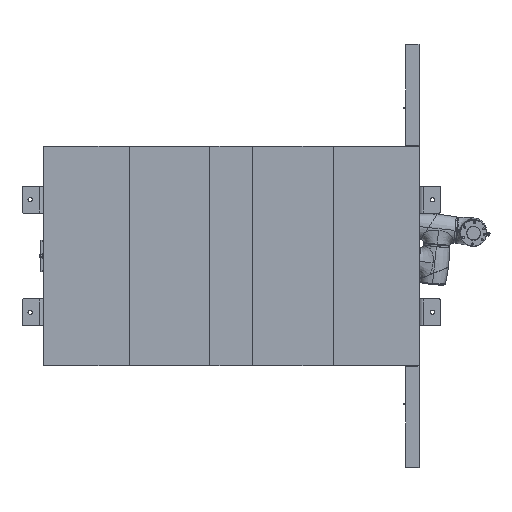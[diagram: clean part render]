
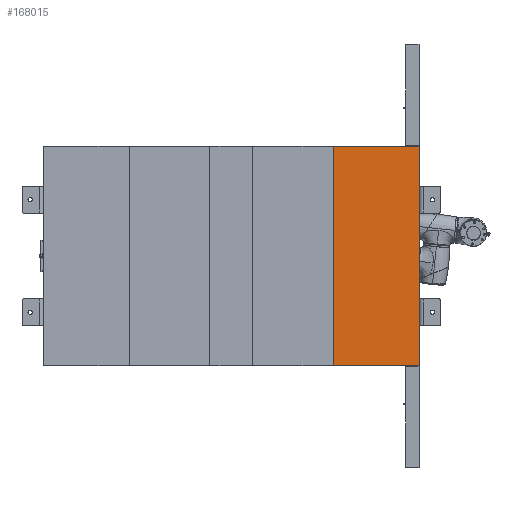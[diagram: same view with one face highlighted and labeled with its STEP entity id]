
A CAD part, front view. The second image highlights one B-rep face of the part: STEP entity #168015.
In plain terms, the highlighted planar face has unit normal (0, -1, 0).
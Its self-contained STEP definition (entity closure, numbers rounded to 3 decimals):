
#7217 = EDGE_CURVE ( 'NONE', #175824, #85974, #82599, .T. ) ;
#9240 = CARTESIAN_POINT ( 'NONE',  ( 421.405, -28.502, 2020. ) ) ;
#13879 = ORIENTED_EDGE ( 'NONE', *, *, #194552, .T. ) ;
#19498 = FACE_OUTER_BOUND ( 'NONE', #180730, .T. ) ;
#35942 = CARTESIAN_POINT ( 'NONE',  ( 101.405, -28.502, 2020. ) ) ;
#39236 = VECTOR ( 'NONE', #193375, 1000. ) ;
#49193 = EDGE_CURVE ( 'NONE', #196843, #175824, #197906, .T. ) ;
#53052 = ORIENTED_EDGE ( 'NONE', *, *, #49193, .F. ) ;
#56861 = ORIENTED_EDGE ( 'NONE', *, *, #84410, .T. ) ;
#64954 = VECTOR ( 'NONE', #201296, 1000. ) ;
#66444 = CARTESIAN_POINT ( 'NONE',  ( 101.405, -28.502, 1200. ) ) ;
#70169 = CARTESIAN_POINT ( 'NONE',  ( 101.405, -28.502, 2020. ) ) ;
#74364 = CARTESIAN_POINT ( 'NONE',  ( 101.405, -28.502, 2020. ) ) ;
#82599 = LINE ( 'NONE', #9240, #204390 ) ;
#84410 = EDGE_CURVE ( 'NONE', #205393, #85974, #85958, .T. ) ;
#85958 = LINE ( 'NONE', #122487, #39236 ) ;
#85974 = VERTEX_POINT ( 'NONE', #158539 ) ;
#87242 = PLANE ( 'NONE',  #167054 ) ;
#90770 = DIRECTION ( 'NONE',  ( 0., 0., -1. ) ) ;
#91898 = LINE ( 'NONE', #70169, #225477 ) ;
#122487 = CARTESIAN_POINT ( 'NONE',  ( 101.405, -28.502, 1200. ) ) ;
#146064 = CARTESIAN_POINT ( 'NONE',  ( 421.405, -28.502, 2020. ) ) ;
#158539 = CARTESIAN_POINT ( 'NONE',  ( 421.405, -28.502, 1200. ) ) ;
#167054 = AXIS2_PLACEMENT_3D ( 'NONE', #200310, #196943, #183122 ) ;
#167203 = DIRECTION ( 'NONE',  ( 0., 0., -1. ) ) ;
#168015 = ADVANCED_FACE ( 'NONE', ( #19498 ), #87242, .F. ) ;
#175824 = VERTEX_POINT ( 'NONE', #146064 ) ;
#180730 = EDGE_LOOP ( 'NONE', ( #56861, #194158, #53052, #13879 ) ) ;
#183122 = DIRECTION ( 'NONE',  ( -1., 0., 0. ) ) ;
#193375 = DIRECTION ( 'NONE',  ( 1., 0., 0. ) ) ;
#194158 = ORIENTED_EDGE ( 'NONE', *, *, #7217, .F. ) ;
#194552 = EDGE_CURVE ( 'NONE', #196843, #205393, #91898, .T. ) ;
#196843 = VERTEX_POINT ( 'NONE', #35942 ) ;
#196943 = DIRECTION ( 'NONE',  ( 0., 1., 0. ) ) ;
#197906 = LINE ( 'NONE', #74364, #64954 ) ;
#200310 = CARTESIAN_POINT ( 'NONE',  ( 101.405, -28.502, 2020. ) ) ;
#201296 = DIRECTION ( 'NONE',  ( 1., 0., 0. ) ) ;
#204390 = VECTOR ( 'NONE', #167203, 1000. ) ;
#205393 = VERTEX_POINT ( 'NONE', #66444 ) ;
#225477 = VECTOR ( 'NONE', #90770, 1000. ) ;
